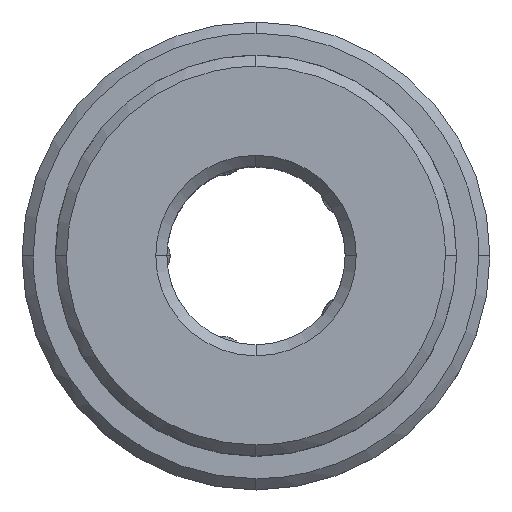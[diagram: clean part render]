
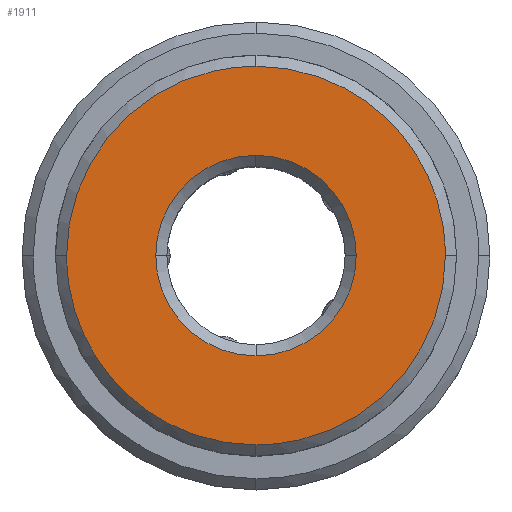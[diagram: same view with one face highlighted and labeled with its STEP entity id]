
A CAD part, top view. The second image highlights one B-rep face of the part: STEP entity #1911.
In plain terms, the highlighted planar face has unit normal (0, 0, 1).
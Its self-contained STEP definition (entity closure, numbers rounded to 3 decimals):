
#1255=CARTESIAN_POINT('Vertex',(4.5,0.,12.)) ;
#1258=CARTESIAN_POINT('Axis2P3D Location',(0.,0.,12.)) ;
#1262=CARTESIAN_POINT('Vertex',(0.,4.5,12.)) ;
#1282=CARTESIAN_POINT('Axis2P3D Location',(0.,0.,12.)) ;
#1286=CARTESIAN_POINT('Vertex',(-4.5,0.,12.)) ;
#1472=CARTESIAN_POINT('Axis2P3D Location',(0.,0.,12.)) ;
#1476=CARTESIAN_POINT('Vertex',(0.,-4.5,12.)) ;
#1496=CARTESIAN_POINT('Axis2P3D Location',(0.,0.,12.)) ;
#1818=CARTESIAN_POINT('Axis2P3D Location',(0.,0.,12.)) ;
#1824=CARTESIAN_POINT('Control Point',(0.,8.5,12.)) ;
#1825=CARTESIAN_POINT('Control Point',(0.758,8.5,12.)) ;
#1826=CARTESIAN_POINT('Control Point',(1.515,8.416,12.)) ;
#1827=CARTESIAN_POINT('Control Point',(2.26,8.247,12.)) ;
#1828=CARTESIAN_POINT('Control Point',(3.794,7.713,12.)) ;
#1829=CARTESIAN_POINT('Control Point',(5.164,6.834,12.)) ;
#1830=CARTESIAN_POINT('Control Point',(5.827,6.277,12.)) ;
#1831=CARTESIAN_POINT('Control Point',(7.,5.009,12.)) ;
#1832=CARTESIAN_POINT('Control Point',(7.822,3.49,12.)) ;
#1833=CARTESIAN_POINT('Control Point',(8.135,2.682,12.)) ;
#1834=CARTESIAN_POINT('Control Point',(8.39,1.649,12.)) ;
#1835=CARTESIAN_POINT('Control Point',(8.483,0.597,12.)) ;
#1836=CARTESIAN_POINT('Control Point',(8.494,0.398,12.)) ;
#1837=CARTESIAN_POINT('Control Point',(8.5,0.199,12.)) ;
#1838=CARTESIAN_POINT('Control Point',(8.5,0.,12.)) ;
#1839=CARTESIAN_POINT('Vertex',(0.,8.5,12.)) ;
#1841=CARTESIAN_POINT('Vertex',(8.5,0.,12.)) ;
#1845=CARTESIAN_POINT('Control Point',(-8.5,0.,12.)) ;
#1846=CARTESIAN_POINT('Control Point',(-8.5,0.857,12.)) ;
#1847=CARTESIAN_POINT('Control Point',(-8.392,1.714,12.)) ;
#1848=CARTESIAN_POINT('Control Point',(-8.176,2.553,12.)) ;
#1849=CARTESIAN_POINT('Control Point',(-7.537,4.158,12.)) ;
#1850=CARTESIAN_POINT('Control Point',(-6.52,5.554,12.)) ;
#1851=CARTESIAN_POINT('Control Point',(-5.926,6.184,12.)) ;
#1852=CARTESIAN_POINT('Control Point',(-4.591,7.281,12.)) ;
#1853=CARTESIAN_POINT('Control Point',(-3.026,8.013,12.)) ;
#1854=CARTESIAN_POINT('Control Point',(-2.202,8.277,12.)) ;
#1855=CARTESIAN_POINT('Control Point',(-1.254,8.454,12.)) ;
#1856=CARTESIAN_POINT('Control Point',(-0.298,8.496,12.)) ;
#1857=CARTESIAN_POINT('Control Point',(-0.199,8.499,12.)) ;
#1858=CARTESIAN_POINT('Control Point',(-0.099,8.5,12.)) ;
#1859=CARTESIAN_POINT('Control Point',(0.,8.5,12.)) ;
#1860=CARTESIAN_POINT('Vertex',(-8.5,0.,12.)) ;
#1864=CARTESIAN_POINT('Control Point',(0.,-8.5,12.)) ;
#1865=CARTESIAN_POINT('Control Point',(-0.758,-8.5,12.)) ;
#1866=CARTESIAN_POINT('Control Point',(-1.515,-8.416,12.)) ;
#1867=CARTESIAN_POINT('Control Point',(-2.26,-8.247,12.)) ;
#1868=CARTESIAN_POINT('Control Point',(-3.794,-7.713,12.)) ;
#1869=CARTESIAN_POINT('Control Point',(-5.164,-6.834,12.)) ;
#1870=CARTESIAN_POINT('Control Point',(-5.827,-6.277,12.)) ;
#1871=CARTESIAN_POINT('Control Point',(-7.,-5.009,12.)) ;
#1872=CARTESIAN_POINT('Control Point',(-7.822,-3.49,12.)) ;
#1873=CARTESIAN_POINT('Control Point',(-8.135,-2.682,12.)) ;
#1874=CARTESIAN_POINT('Control Point',(-8.39,-1.649,12.)) ;
#1875=CARTESIAN_POINT('Control Point',(-8.483,-0.597,12.)) ;
#1876=CARTESIAN_POINT('Control Point',(-8.494,-0.398,12.)) ;
#1877=CARTESIAN_POINT('Control Point',(-8.5,-0.199,12.)) ;
#1878=CARTESIAN_POINT('Control Point',(-8.5,0.,12.)) ;
#1879=CARTESIAN_POINT('Vertex',(0.,-8.5,12.)) ;
#1883=CARTESIAN_POINT('Control Point',(8.5,0.,12.)) ;
#1884=CARTESIAN_POINT('Control Point',(8.5,-0.857,12.)) ;
#1885=CARTESIAN_POINT('Control Point',(8.392,-1.714,12.)) ;
#1886=CARTESIAN_POINT('Control Point',(8.176,-2.553,12.)) ;
#1887=CARTESIAN_POINT('Control Point',(7.537,-4.158,12.)) ;
#1888=CARTESIAN_POINT('Control Point',(6.52,-5.554,12.)) ;
#1889=CARTESIAN_POINT('Control Point',(5.926,-6.184,12.)) ;
#1890=CARTESIAN_POINT('Control Point',(4.591,-7.281,12.)) ;
#1891=CARTESIAN_POINT('Control Point',(3.026,-8.013,12.)) ;
#1892=CARTESIAN_POINT('Control Point',(2.202,-8.277,12.)) ;
#1893=CARTESIAN_POINT('Control Point',(1.254,-8.454,12.)) ;
#1894=CARTESIAN_POINT('Control Point',(0.298,-8.496,12.)) ;
#1895=CARTESIAN_POINT('Control Point',(0.199,-8.499,12.)) ;
#1896=CARTESIAN_POINT('Control Point',(0.099,-8.5,12.)) ;
#1897=CARTESIAN_POINT('Control Point',(0.,-8.5,12.)) ;
#1259=DIRECTION('Axis2P3D Direction',(0.,0.,1.)) ;
#1283=DIRECTION('Axis2P3D Direction',(0.,0.,1.)) ;
#1473=DIRECTION('Axis2P3D Direction',(0.,0.,1.)) ;
#1497=DIRECTION('Axis2P3D Direction',(0.,0.,1.)) ;
#1819=DIRECTION('Axis2P3D Direction',(0.,0.,1.)) ;
#1820=DIRECTION('Axis2P3D XDirection',(-1.,0.,0.)) ;
#1260=AXIS2_PLACEMENT_3D('Circle Axis2P3D',#1258,#1259,$) ;
#1284=AXIS2_PLACEMENT_3D('Circle Axis2P3D',#1282,#1283,$) ;
#1474=AXIS2_PLACEMENT_3D('Circle Axis2P3D',#1472,#1473,$) ;
#1498=AXIS2_PLACEMENT_3D('Circle Axis2P3D',#1496,#1497,$) ;
#1821=AXIS2_PLACEMENT_3D('Plane Axis2P3D',#1818,#1819,#1820) ;
#1900=ORIENTED_EDGE('',*,*,#1843,.F.) ;
#1901=ORIENTED_EDGE('',*,*,#1862,.F.) ;
#1902=ORIENTED_EDGE('',*,*,#1881,.F.) ;
#1903=ORIENTED_EDGE('',*,*,#1898,.F.) ;
#1906=ORIENTED_EDGE('',*,*,#1500,.T.) ;
#1907=ORIENTED_EDGE('',*,*,#1478,.T.) ;
#1908=ORIENTED_EDGE('',*,*,#1288,.T.) ;
#1909=ORIENTED_EDGE('',*,*,#1264,.T.) ;
#1910=FACE_BOUND('',#1905,.T.) ;
#1911=ADVANCED_FACE('MANIFOLD_SOLID_BREP #1728',(#1904,#1910),#1822,.T.) ;
#1823=B_SPLINE_CURVE_WITH_KNOTS('',5,(#1824,#1825,#1826,#1827,#1828,#1829,#1830,#1831,#1832,#1833,#1834,#1835,#1836,#1837,#1838),.UNSPECIFIED.,.F.,.U.,(6,3,3,3,6),(18.882,24.238,30.298,36.358,37.764),.UNSPECIFIED.) ;
#1844=B_SPLINE_CURVE_WITH_KNOTS('',5,(#1845,#1846,#1847,#1848,#1849,#1850,#1851,#1852,#1853,#1854,#1855,#1856,#1857,#1858,#1859),.UNSPECIFIED.,.F.,.U.,(6,3,3,3,6),(0.,6.06,12.119,18.179,18.882),.UNSPECIFIED.) ;
#1863=B_SPLINE_CURVE_WITH_KNOTS('',5,(#1864,#1865,#1866,#1867,#1868,#1869,#1870,#1871,#1872,#1873,#1874,#1875,#1876,#1877,#1878),.UNSPECIFIED.,.F.,.U.,(6,3,3,3,6),(18.882,24.238,30.298,36.358,37.764),.UNSPECIFIED.) ;
#1882=B_SPLINE_CURVE_WITH_KNOTS('',5,(#1883,#1884,#1885,#1886,#1887,#1888,#1889,#1890,#1891,#1892,#1893,#1894,#1895,#1896,#1897),.UNSPECIFIED.,.F.,.U.,(6,3,3,3,6),(0.,6.06,12.119,18.179,18.882),.UNSPECIFIED.) ;
#1261=CIRCLE('generated circle',#1260,4.5) ;
#1285=CIRCLE('generated circle',#1284,4.5) ;
#1475=CIRCLE('generated circle',#1474,4.5) ;
#1499=CIRCLE('generated circle',#1498,4.5) ;
#1264=EDGE_CURVE('',#1263,#1256,#1261,.F.) ;
#1288=EDGE_CURVE('',#1287,#1263,#1285,.F.) ;
#1478=EDGE_CURVE('',#1477,#1287,#1475,.F.) ;
#1500=EDGE_CURVE('',#1256,#1477,#1499,.F.) ;
#1843=EDGE_CURVE('',#1840,#1842,#1823,.T.) ;
#1862=EDGE_CURVE('',#1861,#1840,#1844,.T.) ;
#1881=EDGE_CURVE('',#1880,#1861,#1863,.T.) ;
#1898=EDGE_CURVE('',#1842,#1880,#1882,.T.) ;
#1899=EDGE_LOOP('',(#1900,#1901,#1902,#1903)) ;
#1905=EDGE_LOOP('',(#1906,#1907,#1908,#1909)) ;
#1904=FACE_OUTER_BOUND('',#1899,.T.) ;
#1822=PLANE('Plane',#1821) ;
#1256=VERTEX_POINT('',#1255) ;
#1263=VERTEX_POINT('',#1262) ;
#1287=VERTEX_POINT('',#1286) ;
#1477=VERTEX_POINT('',#1476) ;
#1840=VERTEX_POINT('',#1839) ;
#1842=VERTEX_POINT('',#1841) ;
#1861=VERTEX_POINT('',#1860) ;
#1880=VERTEX_POINT('',#1879) ;
